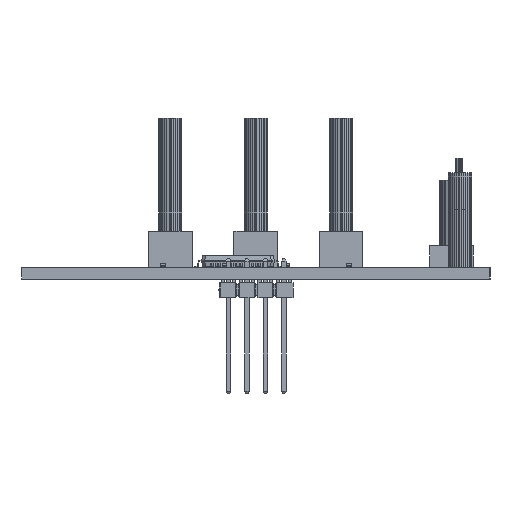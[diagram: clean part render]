
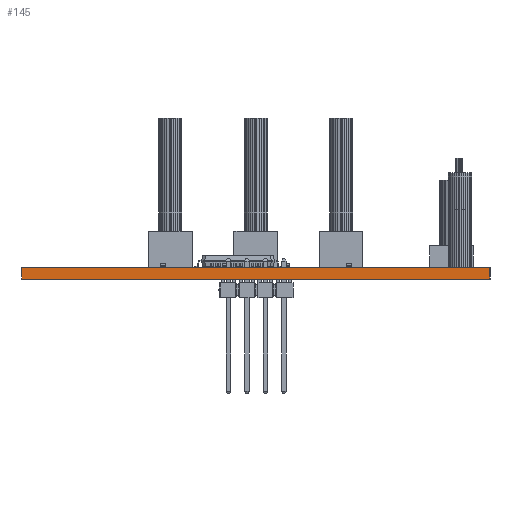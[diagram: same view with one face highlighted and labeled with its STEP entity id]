
A CAD part, left-side view. The second image highlights one B-rep face of the part: STEP entity #145.
In plain terms, the highlighted planar face has unit normal (-1, 0, 0).
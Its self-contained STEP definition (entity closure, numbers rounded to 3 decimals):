
#145 = ADVANCED_FACE('',(#146),#180,.T.);
#146 = FACE_BOUND('',#147,.T.);
#147 = EDGE_LOOP('',(#148,#158,#166,#174));
#148 = ORIENTED_EDGE('',*,*,#149,.T.);
#149 = EDGE_CURVE('',#150,#152,#154,.T.);
#150 = VERTEX_POINT('',#151);
#151 = CARTESIAN_POINT('',(-2.45,-62.,0.));
#152 = VERTEX_POINT('',#153);
#153 = CARTESIAN_POINT('',(-2.45,-62.,1.601));
#154 = LINE('',#155,#156);
#155 = CARTESIAN_POINT('',(-2.45,-62.,0.));
#156 = VECTOR('',#157,1.);
#157 = DIRECTION('',(0.,0.,1.));
#158 = ORIENTED_EDGE('',*,*,#159,.T.);
#159 = EDGE_CURVE('',#152,#160,#162,.T.);
#160 = VERTEX_POINT('',#161);
#161 = CARTESIAN_POINT('',(-2.45,2.4,1.601));
#162 = LINE('',#163,#164);
#163 = CARTESIAN_POINT('',(-2.45,-62.,1.601));
#164 = VECTOR('',#165,1.);
#165 = DIRECTION('',(0.,1.,0.));
#166 = ORIENTED_EDGE('',*,*,#167,.F.);
#167 = EDGE_CURVE('',#168,#160,#170,.T.);
#168 = VERTEX_POINT('',#169);
#169 = CARTESIAN_POINT('',(-2.45,2.4,0.));
#170 = LINE('',#171,#172);
#171 = CARTESIAN_POINT('',(-2.45,2.4,0.));
#172 = VECTOR('',#173,1.);
#173 = DIRECTION('',(0.,0.,1.));
#174 = ORIENTED_EDGE('',*,*,#175,.F.);
#175 = EDGE_CURVE('',#150,#168,#176,.T.);
#176 = LINE('',#177,#178);
#177 = CARTESIAN_POINT('',(-2.45,-62.,0.));
#178 = VECTOR('',#179,1.);
#179 = DIRECTION('',(0.,1.,0.));
#180 = PLANE('',#181);
#181 = AXIS2_PLACEMENT_3D('',#182,#183,#184);
#182 = CARTESIAN_POINT('',(-2.45,-62.,0.));
#183 = DIRECTION('',(-1.,0.,0.));
#184 = DIRECTION('',(0.,1.,0.));
